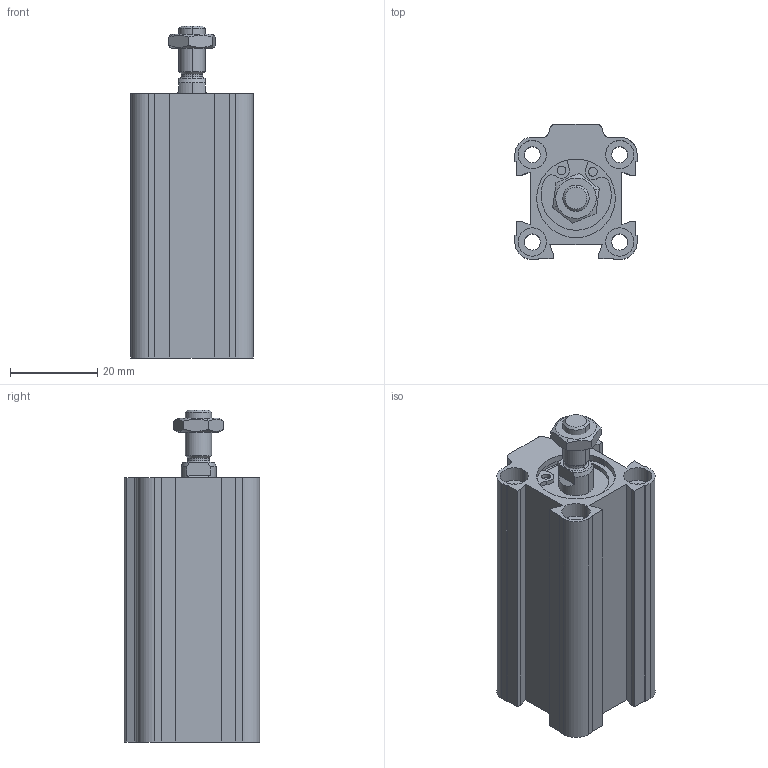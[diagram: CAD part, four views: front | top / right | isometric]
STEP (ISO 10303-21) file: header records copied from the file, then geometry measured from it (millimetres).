
FILE_DESCRIPTION (( 'STEP AP214' ), '1' );
FILE_NAME ('WSAC-016-0030-ML (3D).STEP', '2018-10-26T10:02:43', ( 'Hidtek' ), ( '' ), 'SwSTEP 2.0', 'SolidWorks 2016', '' );
FILE_SCHEMA (( 'AUTOMOTIVE_DESIGN' ));
Length unit declared in the file: millimetre
Products named in the file (4): Group2^WSAC-016-0030-ML (3D); Group3^WSAC-016-0030-ML (3D); WSAC-016-0030-ML (3D); Group1^WSAC-016-0030-ML (3D)
Assembly tree (3 placements, depth 2):
  WSAC-016-0030-ML (3D)
    Group1^WSAC-016-0030-ML (3D)
    Group2^WSAC-016-0030-ML (3D)
    Group3^WSAC-016-0030-ML (3D)
Bounding box: 28 x 31 x 76 mm (x, y, z)
Volume: 33160.8 mm3; surface area: 19442.2 mm2
Topology: 7 solids, 7 shells, 473 faces, 1214 edges, 805 vertices
Faces by surface type: plane 254, cylinder 107, bspline 97, cone 15
Entity records: 21023 total; most frequent: CARTESIAN_POINT 8873, ORIENTED_EDGE 2428, DIRECTION 1945, EDGE_CURVE 1214, VERTEX_POINT 805, LINE 699, VECTOR 699, AXIS2_PLACEMENT_3D 623
